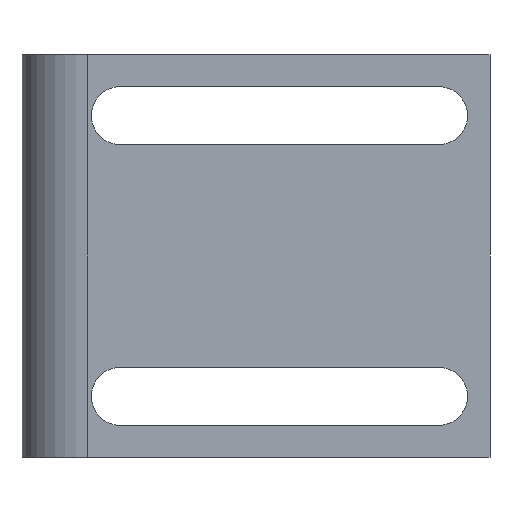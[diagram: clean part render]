
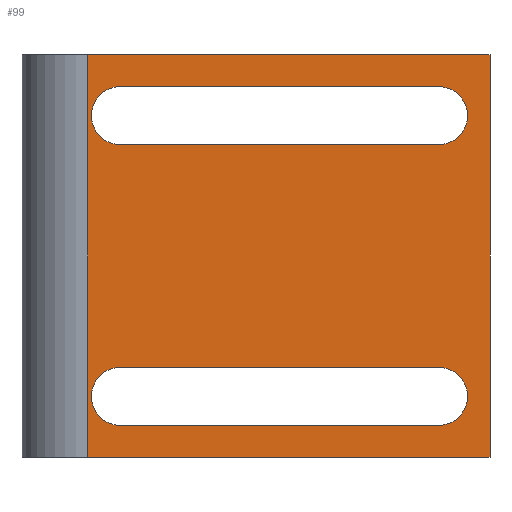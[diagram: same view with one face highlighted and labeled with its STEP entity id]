
A CAD part, front view. The second image highlights one B-rep face of the part: STEP entity #99.
In plain terms, the highlighted planar face has unit normal (0, -1, 0).
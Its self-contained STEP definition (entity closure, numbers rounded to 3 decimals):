
#1 = EDGE_CURVE ( 'NONE', #744, #721, #258, .T. ) ;
#2 = EDGE_CURVE ( 'NONE', #721, #811, #241, .T. ) ;
#12 = EDGE_CURVE ( 'NONE', #723, #819, #231, .T. ) ;
#43 = EDGE_LOOP ( 'NONE', ( #784, #800, #760, #792 ) ) ;
#50 = EDGE_LOOP ( 'NONE', ( #816, #831, #806, #803 ) ) ;
#55 = EDGE_LOOP ( 'NONE', ( #730, #771, #826, #718 ) ) ;
#81 = AXIS2_PLACEMENT_3D ( 'NONE', #853, #872, #860 ) ;
#99 = ADVANCED_FACE ( 'NONE', ( #244, #234, #267 ), #615, .F. ) ;
#103 = CARTESIAN_POINT ( 'NONE',  ( 10.5, 0., -18.1 ) ) ;
#116 = CARTESIAN_POINT ( 'NONE',  ( 44.5, 0., -11.9 ) ) ;
#121 = CARTESIAN_POINT ( 'NONE',  ( 44.5, 0., 11.9 ) ) ;
#123 = CARTESIAN_POINT ( 'NONE',  ( 50., 0., 21.5 ) ) ;
#124 = CARTESIAN_POINT ( 'NONE',  ( 44.5, 0., -18.1 ) ) ;
#127 = CARTESIAN_POINT ( 'NONE',  ( 44.5, 0., 18.1 ) ) ;
#136 = CARTESIAN_POINT ( 'NONE',  ( 7., 0., 21.5 ) ) ;
#138 = CARTESIAN_POINT ( 'NONE',  ( 10.5, 0., 18.1 ) ) ;
#150 = CARTESIAN_POINT ( 'NONE',  ( 7., 0., -21.5 ) ) ;
#176 = CARTESIAN_POINT ( 'NONE',  ( 10.5, 0., -11.9 ) ) ;
#181 = EDGE_CURVE ( 'NONE', #832, #778, #235, .T. ) ;
#218 = CARTESIAN_POINT ( 'NONE',  ( 50., 0., -21.5 ) ) ;
#224 = CARTESIAN_POINT ( 'NONE',  ( 10.5, 0., 11.9 ) ) ;
#229 = EDGE_CURVE ( 'NONE', #778, #819, #911, .T. ) ;
#231 = LINE ( 'NONE', #609, #238 ) ;
#234 = FACE_BOUND ( 'NONE', #43, .T. ) ;
#235 = LINE ( 'NONE', #586, #250 ) ;
#238 = VECTOR ( 'NONE', #603, 1000. ) ;
#241 = LINE ( 'NONE', #641, #271 ) ;
#244 = FACE_BOUND ( 'NONE', #55, .T. ) ;
#250 = VECTOR ( 'NONE', #628, 1000. ) ;
#258 = CIRCLE ( 'NONE', #443, 3.1 ) ;
#267 = FACE_OUTER_BOUND ( 'NONE', #50, .T. ) ;
#271 = VECTOR ( 'NONE', #635, 1000. ) ;
#292 = EDGE_CURVE ( 'NONE', #811, #791, #902, .T. ) ;
#314 = DIRECTION ( 'NONE',  ( 0., 0., -1. ) ) ;
#315 = CARTESIAN_POINT ( 'NONE',  ( 50., 0., 21.5 ) ) ;
#342 = CARTESIAN_POINT ( 'NONE',  ( 44.5, 0., -15. ) ) ;
#349 = DIRECTION ( 'NONE',  ( 0., 0., 1. ) ) ;
#369 = DIRECTION ( 'NONE',  ( 0., 1., 0. ) ) ;
#411 = EDGE_CURVE ( 'NONE', #841, #797, #528, .T. ) ;
#413 = EDGE_CURVE ( 'NONE', #832, #723, #544, .T. ) ;
#418 = EDGE_CURVE ( 'NONE', #791, #744, #957, .T. ) ;
#420 = EDGE_CURVE ( 'NONE', #746, #749, #949, .T. ) ;
#424 = EDGE_CURVE ( 'NONE', #797, #746, #952, .T. ) ;
#425 = EDGE_CURVE ( 'NONE', #749, #841, #954, .T. ) ;
#443 = AXIS2_PLACEMENT_3D ( 'NONE', #642, #612, #636 ) ;
#449 = AXIS2_PLACEMENT_3D ( 'NONE', #596, #599, #616 ) ;
#470 = AXIS2_PLACEMENT_3D ( 'NONE', #342, #369, #349 ) ;
#487 = AXIS2_PLACEMENT_3D ( 'NONE', #856, #857, #847 ) ;
#528 = CIRCLE ( 'NONE', #487, 3.1 ) ;
#544 = LINE ( 'NONE', #852, #557 ) ;
#557 = VECTOR ( 'NONE', #846, 1000. ) ;
#586 = CARTESIAN_POINT ( 'NONE',  ( 7., 0., 21.5 ) ) ;
#596 = CARTESIAN_POINT ( 'NONE',  ( 7., 0., 21.5 ) ) ;
#599 = DIRECTION ( 'NONE',  ( 0., 1., 0. ) ) ;
#603 = DIRECTION ( 'NONE',  ( 1., 0., 0. ) ) ;
#609 = CARTESIAN_POINT ( 'NONE',  ( 7., 0., -21.5 ) ) ;
#612 = DIRECTION ( 'NONE',  ( 0., 1., 0. ) ) ;
#615 = PLANE ( 'NONE',  #449 ) ;
#616 = DIRECTION ( 'NONE',  ( 0., 0., 1. ) ) ;
#628 = DIRECTION ( 'NONE',  ( 1., 0., 0. ) ) ;
#635 = DIRECTION ( 'NONE',  ( 1., 0., 0. ) ) ;
#636 = DIRECTION ( 'NONE',  ( 0., 0., 1. ) ) ;
#641 = CARTESIAN_POINT ( 'NONE',  ( 44.5, 0., -11.9 ) ) ;
#642 = CARTESIAN_POINT ( 'NONE',  ( 10.5, 0., -15. ) ) ;
#718 = ORIENTED_EDGE ( 'NONE', *, *, #420, .T. ) ;
#721 = VERTEX_POINT ( 'NONE', #176 ) ;
#723 = VERTEX_POINT ( 'NONE', #150 ) ;
#730 = ORIENTED_EDGE ( 'NONE', *, *, #425, .T. ) ;
#744 = VERTEX_POINT ( 'NONE', #103 ) ;
#746 = VERTEX_POINT ( 'NONE', #127 ) ;
#749 = VERTEX_POINT ( 'NONE', #121 ) ;
#760 = ORIENTED_EDGE ( 'NONE', *, *, #2, .T. ) ;
#771 = ORIENTED_EDGE ( 'NONE', *, *, #411, .T. ) ;
#778 = VERTEX_POINT ( 'NONE', #123 ) ;
#784 = ORIENTED_EDGE ( 'NONE', *, *, #418, .T. ) ;
#791 = VERTEX_POINT ( 'NONE', #124 ) ;
#792 = ORIENTED_EDGE ( 'NONE', *, *, #292, .T. ) ;
#797 = VERTEX_POINT ( 'NONE', #138 ) ;
#800 = ORIENTED_EDGE ( 'NONE', *, *, #1, .T. ) ;
#803 = ORIENTED_EDGE ( 'NONE', *, *, #413, .T. ) ;
#806 = ORIENTED_EDGE ( 'NONE', *, *, #181, .F. ) ;
#811 = VERTEX_POINT ( 'NONE', #116 ) ;
#816 = ORIENTED_EDGE ( 'NONE', *, *, #12, .T. ) ;
#819 = VERTEX_POINT ( 'NONE', #218 ) ;
#826 = ORIENTED_EDGE ( 'NONE', *, *, #424, .T. ) ;
#831 = ORIENTED_EDGE ( 'NONE', *, *, #229, .F. ) ;
#832 = VERTEX_POINT ( 'NONE', #136 ) ;
#841 = VERTEX_POINT ( 'NONE', #224 ) ;
#846 = DIRECTION ( 'NONE',  ( 0., 0., -1. ) ) ;
#847 = DIRECTION ( 'NONE',  ( 0., 0., -1. ) ) ;
#852 = CARTESIAN_POINT ( 'NONE',  ( 7., 0., 21.5 ) ) ;
#853 = CARTESIAN_POINT ( 'NONE',  ( 44.5, 0., 15. ) ) ;
#854 = CARTESIAN_POINT ( 'NONE',  ( 44.5, 0., -18.1 ) ) ;
#856 = CARTESIAN_POINT ( 'NONE',  ( 10.5, 0., 15. ) ) ;
#857 = DIRECTION ( 'NONE',  ( 0., 1., 0. ) ) ;
#860 = DIRECTION ( 'NONE',  ( 0., 0., -1. ) ) ;
#861 = CARTESIAN_POINT ( 'NONE',  ( 44.5, 0., 18.1 ) ) ;
#869 = CARTESIAN_POINT ( 'NONE',  ( 44.5, 0., 11.9 ) ) ;
#870 = DIRECTION ( 'NONE',  ( -1., 0., 0. ) ) ;
#872 = DIRECTION ( 'NONE',  ( 0., 1., 0. ) ) ;
#873 = DIRECTION ( 'NONE',  ( -1., 0., 0. ) ) ;
#882 = DIRECTION ( 'NONE',  ( 1., 0., 0. ) ) ;
#902 = CIRCLE ( 'NONE', #470, 3.1 ) ;
#908 = VECTOR ( 'NONE', #314, 1000. ) ;
#911 = LINE ( 'NONE', #315, #908 ) ;
#949 = CIRCLE ( 'NONE', #81, 3.1 ) ;
#950 = VECTOR ( 'NONE', #873, 1000. ) ;
#952 = LINE ( 'NONE', #861, #966 ) ;
#954 = LINE ( 'NONE', #869, #965 ) ;
#957 = LINE ( 'NONE', #854, #950 ) ;
#965 = VECTOR ( 'NONE', #870, 1000. ) ;
#966 = VECTOR ( 'NONE', #882, 1000. ) ;
